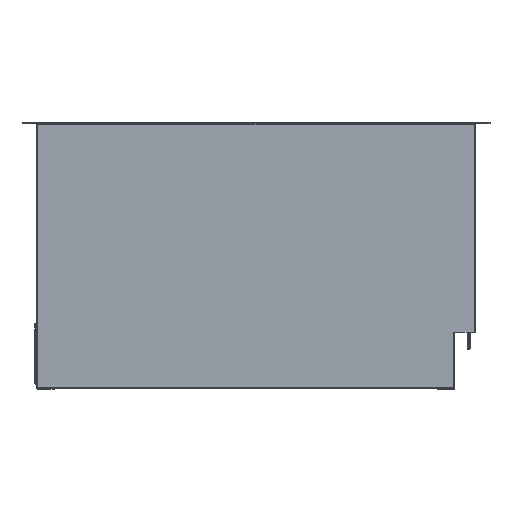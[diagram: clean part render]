
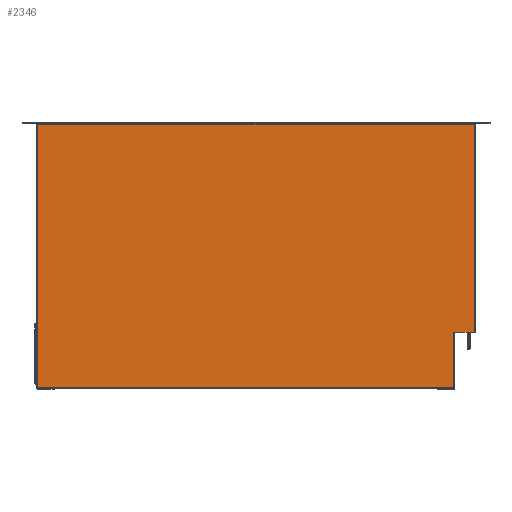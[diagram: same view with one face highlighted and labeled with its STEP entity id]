
A CAD part, front view. The second image highlights one B-rep face of the part: STEP entity #2346.
In plain terms, the highlighted planar face has unit normal (0, -1, -0.016) as drawn and (0, 0, -1) by its records, which use the part's own axes.
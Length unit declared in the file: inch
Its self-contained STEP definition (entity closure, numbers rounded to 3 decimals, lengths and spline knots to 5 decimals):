
#533 = LINE ( 'NONE', #14244, #5698 ) ;
#697 = ORIENTED_EDGE ( 'NONE', *, *, #4816, .F. ) ;
#733 = CARTESIAN_POINT ( 'NONE',  ( 11.99935, 0.77156, -0.06 ) ) ;
#1015 = VERTEX_POINT ( 'NONE', #25716 ) ;
#1045 = EDGE_CURVE ( 'NONE', #16960, #14598, #15859, .T. ) ;
#1078 = VERTEX_POINT ( 'NONE', #22490 ) ;
#1219 = VERTEX_POINT ( 'NONE', #13413 ) ;
#1355 = ORIENTED_EDGE ( 'NONE', *, *, #10921, .T. ) ;
#1501 = LINE ( 'NONE', #10309, #25247 ) ;
#1572 = ORIENTED_EDGE ( 'NONE', *, *, #5678, .F. ) ;
#1756 = VECTOR ( 'NONE', #15487, 39.37008 ) ;
#1889 = CARTESIAN_POINT ( 'NONE',  ( 37.26165, 0.76816, -0.06 ) ) ;
#2063 = LINE ( 'NONE', #10455, #6622 ) ;
#2155 = ORIENTED_EDGE ( 'NONE', *, *, #20292, .F. ) ;
#2346 = ADVANCED_FACE ( 'NONE', ( #6805 ), #8308, .T. ) ;
#2991 = LINE ( 'NONE', #19238, #8223 ) ;
#3313 = LINE ( 'NONE', #20070, #7312 ) ;
#3703 = LINE ( 'NONE', #7599, #24691 ) ;
#3877 = CARTESIAN_POINT ( 'NONE',  ( 37.20165, 42.666, -0.06 ) ) ;
#4028 = LINE ( 'NONE', #7942, #25014 ) ;
#4082 = CARTESIAN_POINT ( 'NONE',  ( 11.93096, 0.77156, -0.06 ) ) ;
#4374 = CARTESIAN_POINT ( 'NONE',  ( 32.01165, 2.77156, -0.06 ) ) ;
#4424 = EDGE_CURVE ( 'NONE', #14274, #22378, #1501, .T. ) ;
#4478 = EDGE_CURVE ( 'NONE', #16960, #11619, #8280, .T. ) ;
#4601 = CARTESIAN_POINT ( 'NONE',  ( 11.93096, 42.66261, -0.06 ) ) ;
#4803 = LINE ( 'NONE', #21096, #25820 ) ;
#4816 = EDGE_CURVE ( 'NONE', #24654, #18860, #3313, .T. ) ;
#4983 = DIRECTION ( 'NONE',  ( 0., 1., 0. ) ) ;
#5259 = DIRECTION ( 'NONE',  ( 0., -1., 0. ) ) ;
#5376 = EDGE_CURVE ( 'NONE', #1015, #21403, #12692, .T. ) ;
#5635 = EDGE_CURVE ( 'NONE', #21644, #21203, #23331, .T. ) ;
#5678 = EDGE_CURVE ( 'NONE', #1219, #11940, #533, .T. ) ;
#5698 = VECTOR ( 'NONE', #14597, 39.37008 ) ;
#6622 = VECTOR ( 'NONE', #18698, 39.37008 ) ;
#6805 = FACE_OUTER_BOUND ( 'NONE', #11167, .T. ) ;
#7109 = CARTESIAN_POINT ( 'NONE',  ( 32.01165, 2.76816, -0.06 ) ) ;
#7258 = DIRECTION ( 'NONE',  ( 1., 0., 0. ) ) ;
#7312 = VECTOR ( 'NONE', #5259, 39.37008 ) ;
#7599 = CARTESIAN_POINT ( 'NONE',  ( 37.26165, 2.76816, -0.06 ) ) ;
#7707 = VERTEX_POINT ( 'NONE', #733 ) ;
#7799 = CARTESIAN_POINT ( 'NONE',  ( 37.20165, 42.62886, -0.06 ) ) ;
#7825 = DIRECTION ( 'NONE',  ( -1., 0., 0. ) ) ;
#7905 = DIRECTION ( 'NONE',  ( 0., -1., 0. ) ) ;
#7942 = CARTESIAN_POINT ( 'NONE',  ( 37.20165, 2.80531, -0.06 ) ) ;
#8152 = CARTESIAN_POINT ( 'NONE',  ( 11.99935, 0.76816, -0.06 ) ) ;
#8183 = DIRECTION ( 'NONE',  ( -1., 0., 0. ) ) ;
#8211 = DIRECTION ( 'NONE',  ( 0., 0., -1. ) ) ;
#8223 = VECTOR ( 'NONE', #4983, 39.37008 ) ;
#8280 = LINE ( 'NONE', #25987, #13677 ) ;
#8308 = PLANE ( 'NONE',  #20175 ) ;
#8399 = CARTESIAN_POINT ( 'NONE',  ( 37.26165, 42.62886, -0.06 ) ) ;
#9145 = DIRECTION ( 'NONE',  ( 0., 1., 0. ) ) ;
#9272 = ORIENTED_EDGE ( 'NONE', *, *, #22534, .T. ) ;
#10305 = CARTESIAN_POINT ( 'NONE',  ( 37.20505, 42.62886, -0.06 ) ) ;
#10309 = CARTESIAN_POINT ( 'NONE',  ( 37.26165, 42.666, -0.06 ) ) ;
#10455 = CARTESIAN_POINT ( 'NONE',  ( 37.20165, 42.78261, -0.06 ) ) ;
#10921 = EDGE_CURVE ( 'NONE', #1219, #1078, #4028, .T. ) ;
#11167 = EDGE_LOOP ( 'NONE', ( #22132, #17676, #19383, #19193, #25059, #21310, #24116, #25919, #21567, #22043, #20853, #1572, #1355, #2155, #697, #9272 ) ) ;
#11619 = VERTEX_POINT ( 'NONE', #25782 ) ;
#11940 = VERTEX_POINT ( 'NONE', #22351 ) ;
#12527 = CARTESIAN_POINT ( 'NONE',  ( 11.99935, 42.666, -0.06 ) ) ;
#12692 = LINE ( 'NONE', #18683, #22423 ) ;
#13214 = EDGE_CURVE ( 'NONE', #7707, #14598, #19805, .T. ) ;
#13413 = CARTESIAN_POINT ( 'NONE',  ( 37.20165, 2.80531, -0.06 ) ) ;
#13677 = VECTOR ( 'NONE', #9145, 39.37008 ) ;
#13730 = LINE ( 'NONE', #19765, #21230 ) ;
#14244 = CARTESIAN_POINT ( 'NONE',  ( 37.26165, 2.80531, -0.06 ) ) ;
#14274 = VERTEX_POINT ( 'NONE', #12527 ) ;
#14309 = VECTOR ( 'NONE', #21286, 39.37008 ) ;
#14597 = DIRECTION ( 'NONE',  ( 1., 0., 0. ) ) ;
#14598 = VERTEX_POINT ( 'NONE', #8152 ) ;
#15120 = VECTOR ( 'NONE', #7825, 39.37008 ) ;
#15292 = CARTESIAN_POINT ( 'NONE',  ( 11.99935, 42.66261, -0.06 ) ) ;
#15487 = DIRECTION ( 'NONE',  ( 1., 0., 0. ) ) ;
#15859 = LINE ( 'NONE', #1889, #15120 ) ;
#16176 = LINE ( 'NONE', #10305, #17469 ) ;
#16923 = EDGE_CURVE ( 'NONE', #7707, #23220, #13730, .T. ) ;
#16960 = VERTEX_POINT ( 'NONE', #18733 ) ;
#17023 = DIRECTION ( 'NONE',  ( 0., -1., 0. ) ) ;
#17469 = VECTOR ( 'NONE', #24609, 39.37008 ) ;
#17676 = ORIENTED_EDGE ( 'NONE', *, *, #1045, .T. ) ;
#18613 = DIRECTION ( 'NONE',  ( -1., 0., 0. ) ) ;
#18683 = CARTESIAN_POINT ( 'NONE',  ( 37.26165, 42.62886, -0.06 ) ) ;
#18698 = DIRECTION ( 'NONE',  ( 0., -1., 0. ) ) ;
#18733 = CARTESIAN_POINT ( 'NONE',  ( 31.88665, 0.76816, -0.06 ) ) ;
#18860 = VERTEX_POINT ( 'NONE', #7109 ) ;
#19192 = CARTESIAN_POINT ( 'NONE',  ( 11.99935, 42.66261, -0.06 ) ) ;
#19193 = ORIENTED_EDGE ( 'NONE', *, *, #16923, .T. ) ;
#19238 = CARTESIAN_POINT ( 'NONE',  ( 11.93096, 42.62886, -0.06 ) ) ;
#19383 = ORIENTED_EDGE ( 'NONE', *, *, #13214, .F. ) ;
#19765 = CARTESIAN_POINT ( 'NONE',  ( 11.99935, 0.77156, -0.06 ) ) ;
#19805 = LINE ( 'NONE', #20711, #14309 ) ;
#19830 = DIRECTION ( 'NONE',  ( -1., 0., 0. ) ) ;
#19863 = DIRECTION ( 'NONE',  ( -1., 0., 0. ) ) ;
#20070 = CARTESIAN_POINT ( 'NONE',  ( 32.01165, 2.71156, -0.06 ) ) ;
#20110 = LINE ( 'NONE', #4374, #20792 ) ;
#20175 = AXIS2_PLACEMENT_3D ( 'NONE', #8399, #8211, #8183 ) ;
#20292 = EDGE_CURVE ( 'NONE', #18860, #1078, #3703, .T. ) ;
#20711 = CARTESIAN_POINT ( 'NONE',  ( 11.99935, -0.98147, -0.06 ) ) ;
#20792 = VECTOR ( 'NONE', #18613, 39.37008 ) ;
#20853 = ORIENTED_EDGE ( 'NONE', *, *, #26030, .T. ) ;
#21096 = CARTESIAN_POINT ( 'NONE',  ( 11.99935, 42.72261, -0.06 ) ) ;
#21203 = VERTEX_POINT ( 'NONE', #19192 ) ;
#21230 = VECTOR ( 'NONE', #19863, 39.37008 ) ;
#21286 = DIRECTION ( 'NONE',  ( 0., -1., 0. ) ) ;
#21310 = ORIENTED_EDGE ( 'NONE', *, *, #5635, .T. ) ;
#21403 = VERTEX_POINT ( 'NONE', #7799 ) ;
#21567 = ORIENTED_EDGE ( 'NONE', *, *, #24401, .T. ) ;
#21644 = VERTEX_POINT ( 'NONE', #4601 ) ;
#21801 = CARTESIAN_POINT ( 'NONE',  ( 32.01165, 2.77156, -0.06 ) ) ;
#22043 = ORIENTED_EDGE ( 'NONE', *, *, #5376, .F. ) ;
#22132 = ORIENTED_EDGE ( 'NONE', *, *, #4478, .F. ) ;
#22351 = CARTESIAN_POINT ( 'NONE',  ( 37.20505, 2.80531, -0.06 ) ) ;
#22378 = VERTEX_POINT ( 'NONE', #3877 ) ;
#22423 = VECTOR ( 'NONE', #19830, 39.37008 ) ;
#22490 = CARTESIAN_POINT ( 'NONE',  ( 37.20165, 2.76816, -0.06 ) ) ;
#22501 = DIRECTION ( 'NONE',  ( 1., 0., 0. ) ) ;
#22534 = EDGE_CURVE ( 'NONE', #24654, #11619, #20110, .T. ) ;
#23220 = VERTEX_POINT ( 'NONE', #4082 ) ;
#23331 = LINE ( 'NONE', #15292, #1756 ) ;
#23473 = EDGE_CURVE ( 'NONE', #14274, #21203, #4803, .T. ) ;
#23534 = EDGE_CURVE ( 'NONE', #23220, #21644, #2991, .T. ) ;
#24116 = ORIENTED_EDGE ( 'NONE', *, *, #23473, .F. ) ;
#24401 = EDGE_CURVE ( 'NONE', #22378, #21403, #2063, .T. ) ;
#24609 = DIRECTION ( 'NONE',  ( 0., -1., 0. ) ) ;
#24654 = VERTEX_POINT ( 'NONE', #21801 ) ;
#24691 = VECTOR ( 'NONE', #7258, 39.37008 ) ;
#25014 = VECTOR ( 'NONE', #7905, 39.37008 ) ;
#25059 = ORIENTED_EDGE ( 'NONE', *, *, #23534, .T. ) ;
#25247 = VECTOR ( 'NONE', #22501, 39.37008 ) ;
#25716 = CARTESIAN_POINT ( 'NONE',  ( 37.20505, 42.62886, -0.06 ) ) ;
#25782 = CARTESIAN_POINT ( 'NONE',  ( 31.88665, 2.77156, -0.06 ) ) ;
#25820 = VECTOR ( 'NONE', #17023, 39.37008 ) ;
#25919 = ORIENTED_EDGE ( 'NONE', *, *, #4424, .T. ) ;
#25987 = CARTESIAN_POINT ( 'NONE',  ( 31.88665, 0.71156, -0.06 ) ) ;
#26030 = EDGE_CURVE ( 'NONE', #1015, #11940, #16176, .T. ) ;
